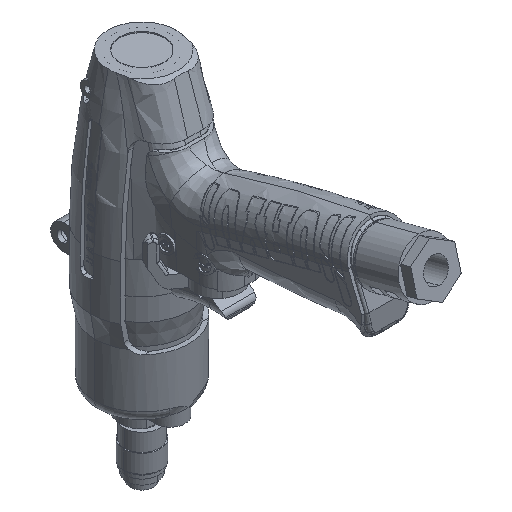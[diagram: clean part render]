
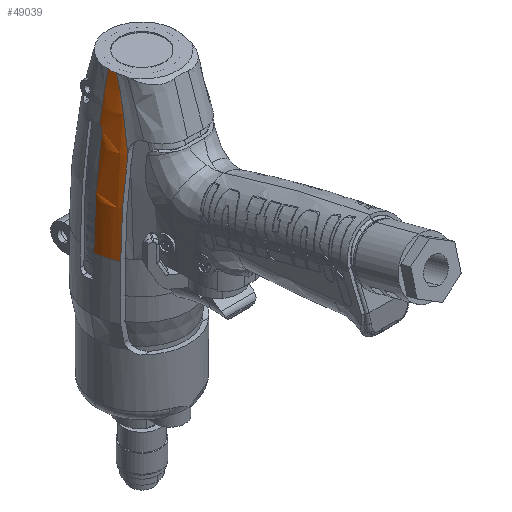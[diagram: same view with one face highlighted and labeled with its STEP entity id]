
A CAD part, isometric view. The second image highlights one B-rep face of the part: STEP entity #49039.
In plain terms, the highlighted toroidal (fillet/blend) face has major radius 277.5 mm and minor radius 302 mm.
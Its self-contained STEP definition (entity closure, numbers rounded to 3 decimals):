
#643 = B_SPLINE_CURVE_WITH_KNOTS ( 'NONE', 3,
 ( #28820, #57280, #38369, #9987, #43149, #14752, #47977, #19494 ),
 .UNSPECIFIED., .F., .F.,
 ( 4, 2, 2, 4 ),
 ( 0.283, 0.293, 0.304, 0.326 ),
 .UNSPECIFIED. ) ;
#871 = CARTESIAN_POINT ( 'NONE',  ( 15.983, -4.633, -165.15 ) ) ;
#1148 = DIRECTION ( 'NONE',  ( 1., 0., 0. ) ) ;
#2031 = CARTESIAN_POINT ( 'NONE',  ( 24.454, -1.5, -96.399 ) ) ;
#2366 = DIRECTION ( 'NONE',  ( -1., 0., 0. ) ) ;
#2434 = CARTESIAN_POINT ( 'NONE',  ( 20.47, -1.219, -145.646 ) ) ;
#2902 = CARTESIAN_POINT ( 'NONE',  ( 23.374, -1.5, -122.194 ) ) ;
#4605 = ORIENTED_EDGE ( 'NONE', *, *, #58672, .T. ) ;
#5211 = EDGE_CURVE ( 'NONE', #32957, #24176, #52360, .T. ) ;
#5512 = EDGE_CURVE ( 'NONE', #38808, #9980, #14261, .T. ) ;
#5656 = CARTESIAN_POINT ( 'NONE',  ( 15.773, -3.874, -166.847 ) ) ;
#5979 = AXIS2_PLACEMENT_3D ( 'NONE', #58006, #29554, #1148 ) ;
#7020 = CARTESIAN_POINT ( 'NONE',  ( 20.554, -1.465, -145.035 ) ) ;
#7230 = CARTESIAN_POINT ( 'NONE',  ( 20.409, -0.787, -146.147 ) ) ;
#7678 = CARTESIAN_POINT ( 'NONE',  ( 22.897, -1.5, -127.409 ) ) ;
#9383 = CARTESIAN_POINT ( 'NONE',  ( 15.701, -3.588, -167.4 ) ) ;
#9980 = VERTEX_POINT ( 'NONE', #9383 ) ;
#9987 = CARTESIAN_POINT ( 'NONE',  ( 21.298, -11.5, -110.515 ) ) ;
#10931 = ORIENTED_EDGE ( 'NONE', *, *, #20498, .F. ) ;
#11524 = CARTESIAN_POINT ( 'NONE',  ( 18.235, -11.5, -138.742 ) ) ;
#12016 = CARTESIAN_POINT ( 'NONE',  ( 20.368, -0.215, -146.481 ) ) ;
#12275 = CARTESIAN_POINT ( 'NONE',  ( 24.462, -1.5, -104.353 ) ) ;
#12471 = CARTESIAN_POINT ( 'NONE',  ( 21.837, -1.5, -136.533 ) ) ;
#13910 = CARTESIAN_POINT ( 'NONE',  ( 20.359, 0., -146.536 ) ) ;
#14261 = B_SPLINE_CURVE_WITH_KNOTS ( 'NONE', 3,
 ( #38633, #52782, #43431, #15002, #48243, #19767, #52985, #24547, #57759, #29307, #871, #34079, #5656, #38839 ),
 .UNSPECIFIED., .F., .F.,
 ( 4, 2, 2, 2, 2, 2, 4 ),
 ( 0.044, 0.052, 0.059, 0.067, 0.07, 0.072, 0.074 ),
 .UNSPECIFIED. ) ;
#14752 = CARTESIAN_POINT ( 'NONE',  ( 20.248, -11.5, -124.682 ) ) ;
#15002 = CARTESIAN_POINT ( 'NONE',  ( 17.598, -9.58, -148.499 ) ) ;
#17011 = CARTESIAN_POINT ( 'NONE',  ( 24.155, -1.5, -112.323 ) ) ;
#17204 = CARTESIAN_POINT ( 'NONE',  ( 20.622, -1.5, -144.6 ) ) ;
#19494 = CARTESIAN_POINT ( 'NONE',  ( 18.235, -11.5, -138.742 ) ) ;
#19578 = ORIENTED_EDGE ( 'NONE', *, *, #5512, .T. ) ;
#19767 = CARTESIAN_POINT ( 'NONE',  ( 16.991, -7.781, -155.74 ) ) ;
#20384 = ORIENTED_EDGE ( 'NONE', *, *, #27211, .T. ) ;
#20498 = EDGE_CURVE ( 'NONE', #21512, #32957, #33348, .T. ) ;
#20609 = TOROIDAL_SURFACE ( 'NONE', #27443, -277.5, 302. ) ;
#20886 = DIRECTION ( 'NONE',  ( 0., -1., 0. ) ) ;
#21512 = VERTEX_POINT ( 'NONE', #2031 ) ;
#21773 = CARTESIAN_POINT ( 'NONE',  ( 23.483, -1.5, -120.868 ) ) ;
#24176 = VERTEX_POINT ( 'NONE', #13910 ) ;
#24547 = CARTESIAN_POINT ( 'NONE',  ( 16.385, -5.948, -161.674 ) ) ;
#24980 = CARTESIAN_POINT ( 'NONE',  ( 0., 0., -96.693 ) ) ;
#26088 = CARTESIAN_POINT ( 'NONE',  ( 20.622, -1.5, -144.6 ) ) ;
#26552 = CARTESIAN_POINT ( 'NONE',  ( 23.448, -1.5, -121.305 ) ) ;
#27211 = EDGE_CURVE ( 'NONE', #9980, #44622, #29710, .T. ) ;
#27443 = AXIS2_PLACEMENT_3D ( 'NONE', #24980, #43866, #29725 ) ;
#27462 = ORIENTED_EDGE ( 'NONE', *, *, #38106, .T. ) ;
#28426 = ORIENTED_EDGE ( 'NONE', *, *, #5211, .F. ) ;
#28820 = CARTESIAN_POINT ( 'NONE',  ( 21.633, -11.5, -96.399 ) ) ;
#28917 = CIRCLE ( 'NONE', #35038, 302. ) ;
#29307 = CARTESIAN_POINT ( 'NONE',  ( 16.052, -4.867, -164.577 ) ) ;
#29554 = DIRECTION ( 'NONE',  ( 0., 0., 1. ) ) ;
#29710 = CIRCLE ( 'NONE', #5979, 16.106 ) ;
#29725 = DIRECTION ( 'NONE',  ( 1., 0., 0. ) ) ;
#30294 = VERTEX_POINT ( 'NONE', #39249 ) ;
#30798 = DIRECTION ( 'NONE',  ( 0., 0., 1. ) ) ;
#30860 = CARTESIAN_POINT ( 'NONE',  ( 20.495, -1.322, -145.453 ) ) ;
#31314 = CARTESIAN_POINT ( 'NONE',  ( 23.427, -1.5, -121.557 ) ) ;
#32957 = VERTEX_POINT ( 'NONE', #46806 ) ;
#33348 = B_SPLINE_CURVE_WITH_KNOTS ( 'NONE', 3,
 ( #45466, #12275, #17011, #50255, #21773, #55018, #26552, #59778, #31314, #2902, #36110, #7678, #40864, #12471, #45686, #17204 ),
 .UNSPECIFIED., .F., .F.,
 ( 4, 2, 1, 2, 2, 1, 1, 1, 2, 4 ),
 ( 0.458, 0.483, 0.483, 0.484, 0.484, 0.484, 0.486, 0.489, 0.495, 0.507 ),
 .UNSPECIFIED. ) ;
#33728 = CARTESIAN_POINT ( 'NONE',  ( 16.106, 0., -167.4 ) ) ;
#34079 = CARTESIAN_POINT ( 'NONE',  ( 15.843, -4.136, -166.286 ) ) ;
#34331 = AXIS2_PLACEMENT_3D ( 'NONE', #59256, #30798, #2366 ) ;
#34780 = EDGE_LOOP ( 'NONE', ( #20384, #27462, #28426, #10931, #44654, #4605, #19578 ) ) ;
#35038 = AXIS2_PLACEMENT_3D ( 'NONE', #49378, #20886, #54131 ) ;
#35210 = CIRCLE ( 'NONE', #34331, 24.5 ) ;
#35640 = CARTESIAN_POINT ( 'NONE',  ( 20.427, -0.949, -145.997 ) ) ;
#36110 = CARTESIAN_POINT ( 'NONE',  ( 23.231, -1.5, -123.849 ) ) ;
#38106 = EDGE_CURVE ( 'NONE', #44622, #24176, #28917, .T. ) ;
#38369 = CARTESIAN_POINT ( 'NONE',  ( 21.571, -11.5, -103.449 ) ) ;
#38633 = CARTESIAN_POINT ( 'NONE',  ( 18.235, -11.5, -138.742 ) ) ;
#38808 = VERTEX_POINT ( 'NONE', #11524 ) ;
#38839 = CARTESIAN_POINT ( 'NONE',  ( 15.701, -3.588, -167.4 ) ) ;
#39249 = CARTESIAN_POINT ( 'NONE',  ( 21.633, -11.5, -96.399 ) ) ;
#40187 = CARTESIAN_POINT ( 'NONE',  ( 20.586, -1.5, -144.82 ) ) ;
#40408 = CARTESIAN_POINT ( 'NONE',  ( 20.379, -0.417, -146.391 ) ) ;
#40864 = CARTESIAN_POINT ( 'NONE',  ( 22.564, -1.5, -130.453 ) ) ;
#43149 = CARTESIAN_POINT ( 'NONE',  ( 21.09, -11.5, -114.056 ) ) ;
#43431 = CARTESIAN_POINT ( 'NONE',  ( 17.942, -10.607, -143.635 ) ) ;
#43866 = DIRECTION ( 'NONE',  ( 0., 0., 1. ) ) ;
#44622 = VERTEX_POINT ( 'NONE', #33728 ) ;
#44654 = ORIENTED_EDGE ( 'NONE', *, *, #54773, .F. ) ;
#45225 = CARTESIAN_POINT ( 'NONE',  ( 20.359, 0., -146.536 ) ) ;
#45466 = CARTESIAN_POINT ( 'NONE',  ( 24.454, -1.5, -96.399 ) ) ;
#45686 = CARTESIAN_POINT ( 'NONE',  ( 21.27, -1.5, -140.573 ) ) ;
#46806 = CARTESIAN_POINT ( 'NONE',  ( 20.622, -1.5, -144.6 ) ) ;
#47977 = CARTESIAN_POINT ( 'NONE',  ( 19.4, -11.5, -131.731 ) ) ;
#48243 = CARTESIAN_POINT ( 'NONE',  ( 17.409, -9.02, -150.921 ) ) ;
#49039 = ADVANCED_FACE ( 'NONE', ( #57029 ), #20609, .T. ) ;
#49378 = CARTESIAN_POINT ( 'NONE',  ( -277.5, 0., -96.693 ) ) ;
#50255 = CARTESIAN_POINT ( 'NONE',  ( 23.508, -1.5, -120.556 ) ) ;
#52360 = B_SPLINE_CURVE_WITH_KNOTS ( 'NONE', 3,
 ( #26088, #40187, #7020, #30860, #2434, #35640, #7230, #40408, #12016, #45225 ),
 .UNSPECIFIED., .F., .F.,
 ( 4, 2, 2, 2, 4 ),
 ( 0., 0.001, 0.001, 0.002, 0.003 ),
 .UNSPECIFIED. ) ;
#52782 = CARTESIAN_POINT ( 'NONE',  ( 18.096, -11.074, -141.193 ) ) ;
#52985 = CARTESIAN_POINT ( 'NONE',  ( 16.761, -7.105, -158.132 ) ) ;
#54131 = DIRECTION ( 'NONE',  ( 0., 0., -1. ) ) ;
#54773 = EDGE_CURVE ( 'NONE', #30294, #21512, #35210, .T. ) ;
#55018 = CARTESIAN_POINT ( 'NONE',  ( 23.458, -1.5, -121.18 ) ) ;
#57029 = FACE_OUTER_BOUND ( 'NONE', #34780, .T. ) ;
#57280 = CARTESIAN_POINT ( 'NONE',  ( 21.637, -11.5, -99.921 ) ) ;
#57759 = CARTESIAN_POINT ( 'NONE',  ( 16.255, -5.539, -162.845 ) ) ;
#58006 = CARTESIAN_POINT ( 'NONE',  ( 0., 0., -167.4 ) ) ;
#58672 = EDGE_CURVE ( 'NONE', #30294, #38808, #643, .T. ) ;
#59256 = CARTESIAN_POINT ( 'NONE',  ( 0., 0., -96.399 ) ) ;
#59778 = CARTESIAN_POINT ( 'NONE',  ( 23.443, -1.5, -121.366 ) ) ;
